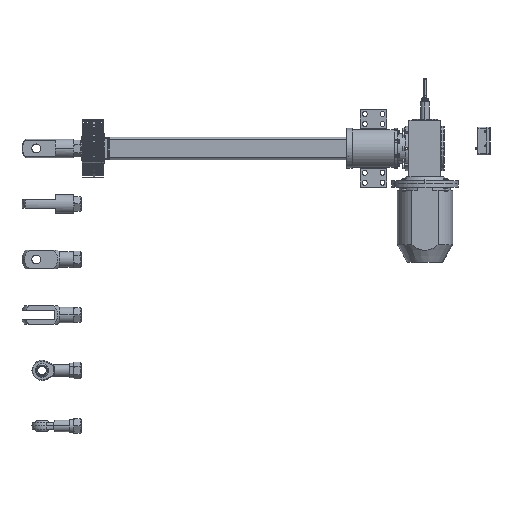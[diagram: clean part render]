
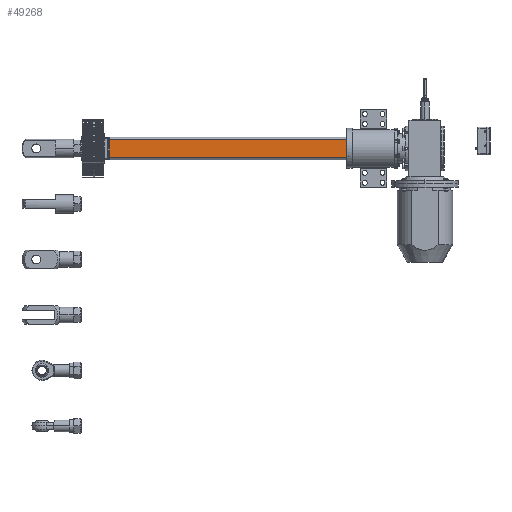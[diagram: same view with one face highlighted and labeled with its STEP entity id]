
A CAD part, front view. The second image highlights one B-rep face of the part: STEP entity #49268.
In plain terms, the highlighted planar face has unit normal (0, -1, 0).
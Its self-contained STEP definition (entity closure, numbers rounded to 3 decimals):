
#3669 = DIRECTION ( 'NONE',  ( 0., 0., -1. ) ) ;
#3682 = CARTESIAN_POINT ( 'NONE',  ( 1080., -50., 40. ) ) ;
#3761 = DIRECTION ( 'NONE',  ( -1., 0., 0. ) ) ;
#3766 = CARTESIAN_POINT ( 'NONE',  ( 1080., -50., 40. ) ) ;
#3768 = CARTESIAN_POINT ( 'NONE',  ( 2., -50., 40. ) ) ;
#3773 = DIRECTION ( 'NONE',  ( 0., 0., -1. ) ) ;
#3774 = CARTESIAN_POINT ( 'NONE',  ( 1080., -50., -40. ) ) ;
#3776 = DIRECTION ( 'NONE',  ( -1., 0., 0. ) ) ;
#10055 = AXIS2_PLACEMENT_3D ( 'NONE', #53977, #53986, #53987 ) ;
#23899 = CARTESIAN_POINT ( 'NONE',  ( 1080., -50., 40. ) ) ;
#23903 = CARTESIAN_POINT ( 'NONE',  ( 1080., -50., -40. ) ) ;
#23915 = CARTESIAN_POINT ( 'NONE',  ( 2., -50., -40. ) ) ;
#23934 = CARTESIAN_POINT ( 'NONE',  ( 2., -50., 40. ) ) ;
#24216 = ORIENTED_EDGE ( 'NONE', *, *, #32263, .T. ) ;
#24217 = ORIENTED_EDGE ( 'NONE', *, *, #32264, .T. ) ;
#24218 = ORIENTED_EDGE ( 'NONE', *, *, #32265, .F. ) ;
#24219 = ORIENTED_EDGE ( 'NONE', *, *, #32229, .F. ) ;
#26039 = LINE ( 'NONE', #3682, #26047 ) ;
#26047 = VECTOR ( 'NONE', #3669, 1000. ) ;
#26094 = LINE ( 'NONE', #3768, #26100 ) ;
#26096 = LINE ( 'NONE', #3766, #26098 ) ;
#26098 = VECTOR ( 'NONE', #3761, 1000. ) ;
#26099 = LINE ( 'NONE', #3774, #26102 ) ;
#26100 = VECTOR ( 'NONE', #3773, 1000. ) ;
#26102 = VECTOR ( 'NONE', #3776, 1000. ) ;
#30650 = VERTEX_POINT ( 'NONE', #23899 ) ;
#30654 = VERTEX_POINT ( 'NONE', #23903 ) ;
#30666 = VERTEX_POINT ( 'NONE', #23915 ) ;
#30685 = VERTEX_POINT ( 'NONE', #23934 ) ;
#32229 = EDGE_CURVE ( 'NONE', #30650, #30654, #26039, .T. ) ;
#32263 = EDGE_CURVE ( 'NONE', #30650, #30685, #26096, .T. ) ;
#32264 = EDGE_CURVE ( 'NONE', #30685, #30666, #26094, .T. ) ;
#32265 = EDGE_CURVE ( 'NONE', #30654, #30666, #26099, .T. ) ;
#49268 = ADVANCED_FACE ( 'NONE', ( #51327 ), #53983, .F. ) ;
#51327 = FACE_OUTER_BOUND ( 'NONE', #52858, .T. ) ;
#52858 = EDGE_LOOP ( 'NONE', ( #24216, #24217, #24218, #24219 ) ) ;
#53977 = CARTESIAN_POINT ( 'NONE',  ( 1080., -50., 40. ) ) ;
#53983 = PLANE ( 'NONE',  #10055 ) ;
#53986 = DIRECTION ( 'NONE',  ( 0., 1., 0. ) ) ;
#53987 = DIRECTION ( 'NONE',  ( 0., 0., 1. ) ) ;
